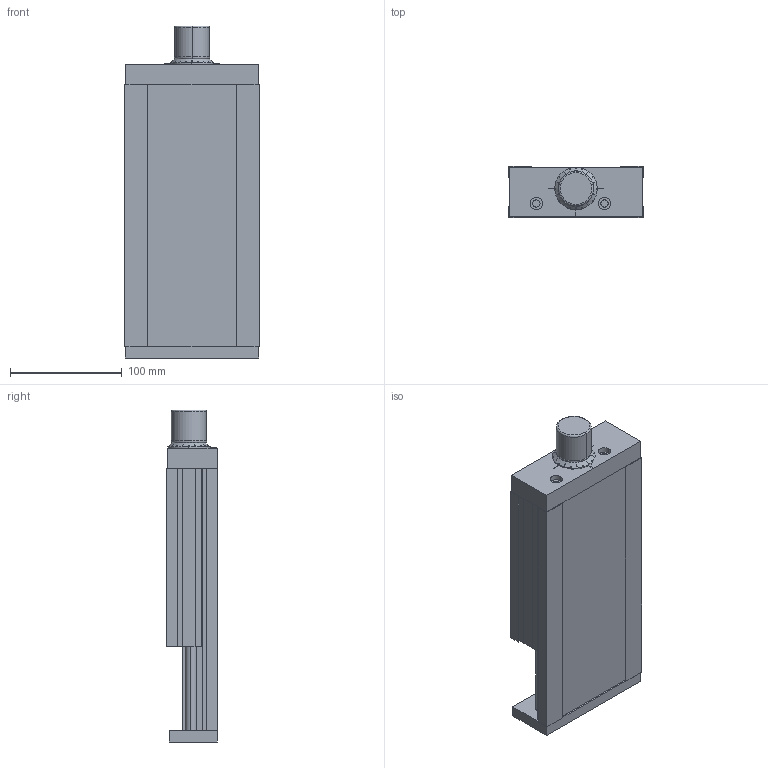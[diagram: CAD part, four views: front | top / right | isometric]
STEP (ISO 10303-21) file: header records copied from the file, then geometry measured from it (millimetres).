
FILE_DESCRIPTION (( 'STEP AP203' ), '1' );
FILE_NAME ('domiLINE 120 Hub 75.STEP', '2004-08-13T08:18:46', ( '' ), ( '' ), 'SwSTEP 2.0', 'SolidWorks 2004073', '' );
FILE_SCHEMA (( 'CONFIG_CONTROL_DESIGN' ));
Length unit declared in the file: millimetre
Products named in the file (3): domiLINE 120 Hub 75; dL 120 light-+-D013323_ _Hub75; Aussenteil neu 120 light-+-D005509_ _Standard
Assembly tree (2 placements, depth 2):
  domiLINE 120 Hub 75
    dL 120 light-+-D013323_ _Hub75
    Aussenteil neu 120 light-+-D005509_ _Standard
Bounding box: 120 x 46 x 297 mm (x, y, z)
Volume: 1092514.8 mm3; surface area: 203445.1 mm2
Topology: 2 solids, 3 shells, 262 faces, 703 edges, 464 vertices
Faces by surface type: plane 156, cylinder 59, cone 23, bspline 20, torus 4
Entity records: 9051 total; most frequent: CARTESIAN_POINT 2336, ORIENTED_EDGE 1406, DIRECTION 1222, EDGE_CURVE 703, VERTEX_POINT 464, VECTOR 450, LINE 450, AXIS2_PLACEMENT_3D 386
